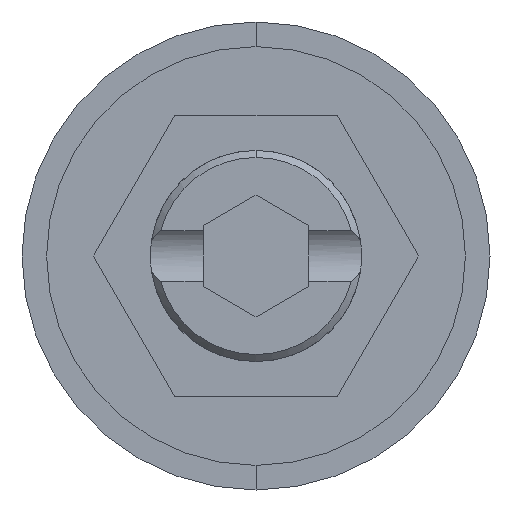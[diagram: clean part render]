
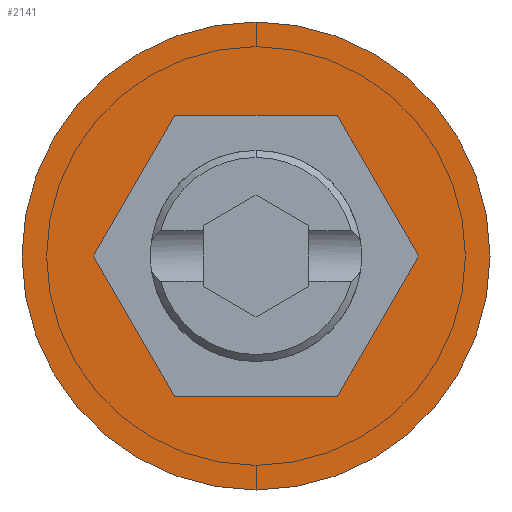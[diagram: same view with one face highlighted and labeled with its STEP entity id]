
A CAD part, front view. The second image highlights one B-rep face of the part: STEP entity #2141.
In plain terms, the highlighted planar face has unit normal (0, -1, 0).
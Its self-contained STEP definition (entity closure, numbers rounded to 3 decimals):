
#117 = FACE_BOUND ( 'NONE', #2742, .T. ) ;
#298 = DIRECTION ( 'NONE',  ( 0.5, 0., -0.866 ) ) ;
#349 = DIRECTION ( 'NONE',  ( 0., 0., -1. ) ) ;
#384 = EDGE_CURVE ( 'NONE', #3666, #1466, #4236, .T. ) ;
#415 = ORIENTED_EDGE ( 'NONE', *, *, #3031, .T. ) ;
#485 = CARTESIAN_POINT ( 'NONE',  ( -2.309, 0., -4. ) ) ;
#503 = VECTOR ( 'NONE', #4596, 1000. ) ;
#571 = CARTESIAN_POINT ( 'NONE',  ( 4.619, 0., 0. ) ) ;
#605 = VECTOR ( 'NONE', #2074, 1000. ) ;
#676 = ORIENTED_EDGE ( 'NONE', *, *, #1282, .F. ) ;
#852 = VERTEX_POINT ( 'NONE', #571 ) ;
#942 = CARTESIAN_POINT ( 'NONE',  ( 0., 0., 0. ) ) ;
#947 = CARTESIAN_POINT ( 'NONE',  ( 0., 0., 0. ) ) ;
#987 = AXIS2_PLACEMENT_3D ( 'NONE', #942, #4129, #2000 ) ;
#1083 = EDGE_CURVE ( 'NONE', #3229, #1408, #1451, .T. ) ;
#1114 = AXIS2_PLACEMENT_3D ( 'NONE', #947, #3418, #1292 ) ;
#1123 = LINE ( 'NONE', #3616, #3824 ) ;
#1134 = CARTESIAN_POINT ( 'NONE',  ( -4.619, 0., 0. ) ) ;
#1282 = EDGE_CURVE ( 'NONE', #1471, #852, #1123, .T. ) ;
#1292 = DIRECTION ( 'NONE',  ( 0., 0., -1. ) ) ;
#1408 = VERTEX_POINT ( 'NONE', #4011 ) ;
#1436 = CIRCLE ( 'NONE', #3479, 6.65 ) ;
#1451 = LINE ( 'NONE', #2677, #4165 ) ;
#1466 = VERTEX_POINT ( 'NONE', #485 ) ;
#1471 = VERTEX_POINT ( 'NONE', #4020 ) ;
#1498 = DIRECTION ( 'NONE',  ( -1., 0., 0. ) ) ;
#1565 = ORIENTED_EDGE ( 'NONE', *, *, #384, .F. ) ;
#1681 = EDGE_CURVE ( 'NONE', #852, #3229, #3283, .T. ) ;
#1772 = EDGE_LOOP ( 'NONE', ( #4220, #415 ) ) ;
#1879 = FACE_OUTER_BOUND ( 'NONE', #1772, .T. ) ;
#1899 = CARTESIAN_POINT ( 'NONE',  ( 4.619, 0., 0. ) ) ;
#2000 = DIRECTION ( 'NONE',  ( 0., 0., -1. ) ) ;
#2046 = ORIENTED_EDGE ( 'NONE', *, *, #3319, .F. ) ;
#2074 = DIRECTION ( 'NONE',  ( 1., 0., 0. ) ) ;
#2141 = ADVANCED_FACE ( 'NONE', ( #117, #1879 ), #3767, .T. ) ;
#2233 = VECTOR ( 'NONE', #3336, 1000. ) ;
#2397 = ORIENTED_EDGE ( 'NONE', *, *, #1083, .F. ) ;
#2440 = EDGE_CURVE ( 'NONE', #1408, #3666, #3220, .T. ) ;
#2465 = DIRECTION ( 'NONE',  ( 0., -1., 0. ) ) ;
#2677 = CARTESIAN_POINT ( 'NONE',  ( 2.309, 0., 4. ) ) ;
#2742 = EDGE_LOOP ( 'NONE', ( #2046, #1565, #3013, #2397, #4185, #676 ) ) ;
#2802 = CARTESIAN_POINT ( 'NONE',  ( -2.309, 0., 4. ) ) ;
#2914 = VERTEX_POINT ( 'NONE', #4128 ) ;
#3013 = ORIENTED_EDGE ( 'NONE', *, *, #2440, .F. ) ;
#3031 = EDGE_CURVE ( 'NONE', #2914, #3693, #3758, .T. ) ;
#3114 = CARTESIAN_POINT ( 'NONE',  ( -2.309, 0., -4. ) ) ;
#3220 = LINE ( 'NONE', #2802, #503 ) ;
#3229 = VERTEX_POINT ( 'NONE', #4549 ) ;
#3283 = LINE ( 'NONE', #1899, #2233 ) ;
#3288 = VECTOR ( 'NONE', #298, 1000. ) ;
#3319 = EDGE_CURVE ( 'NONE', #1466, #1471, #3429, .T. ) ;
#3336 = DIRECTION ( 'NONE',  ( -0.5, 0., 0.866 ) ) ;
#3418 = DIRECTION ( 'NONE',  ( 0., -1., 0. ) ) ;
#3429 = LINE ( 'NONE', #3114, #605 ) ;
#3450 = EDGE_CURVE ( 'NONE', #3693, #2914, #1436, .T. ) ;
#3479 = AXIS2_PLACEMENT_3D ( 'NONE', #4622, #2465, #349 ) ;
#3616 = CARTESIAN_POINT ( 'NONE',  ( 2.309, 0., -4. ) ) ;
#3666 = VERTEX_POINT ( 'NONE', #3747 ) ;
#3675 = DIRECTION ( 'NONE',  ( 0.5, 0., 0.866 ) ) ;
#3693 = VERTEX_POINT ( 'NONE', #4486 ) ;
#3747 = CARTESIAN_POINT ( 'NONE',  ( -4.619, 0., 0. ) ) ;
#3758 = CIRCLE ( 'NONE', #1114, 6.65 ) ;
#3767 = PLANE ( 'NONE',  #987 ) ;
#3824 = VECTOR ( 'NONE', #3675, 1000. ) ;
#4011 = CARTESIAN_POINT ( 'NONE',  ( -2.309, 0., 4. ) ) ;
#4020 = CARTESIAN_POINT ( 'NONE',  ( 2.309, 0., -4. ) ) ;
#4128 = CARTESIAN_POINT ( 'NONE',  ( 0., 0., 6.65 ) ) ;
#4129 = DIRECTION ( 'NONE',  ( 0., -1., 0. ) ) ;
#4165 = VECTOR ( 'NONE', #1498, 1000. ) ;
#4185 = ORIENTED_EDGE ( 'NONE', *, *, #1681, .F. ) ;
#4220 = ORIENTED_EDGE ( 'NONE', *, *, #3450, .T. ) ;
#4236 = LINE ( 'NONE', #1134, #3288 ) ;
#4486 = CARTESIAN_POINT ( 'NONE',  ( 0., 0., -6.65 ) ) ;
#4549 = CARTESIAN_POINT ( 'NONE',  ( 2.309, 0., 4. ) ) ;
#4596 = DIRECTION ( 'NONE',  ( -0.5, 0., -0.866 ) ) ;
#4622 = CARTESIAN_POINT ( 'NONE',  ( 0., 0., 0. ) ) ;
